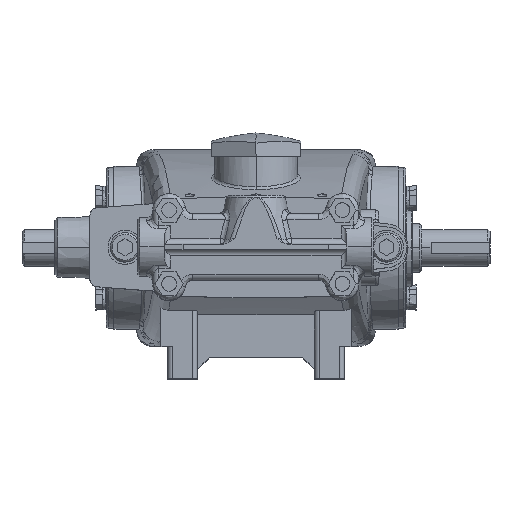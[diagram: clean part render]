
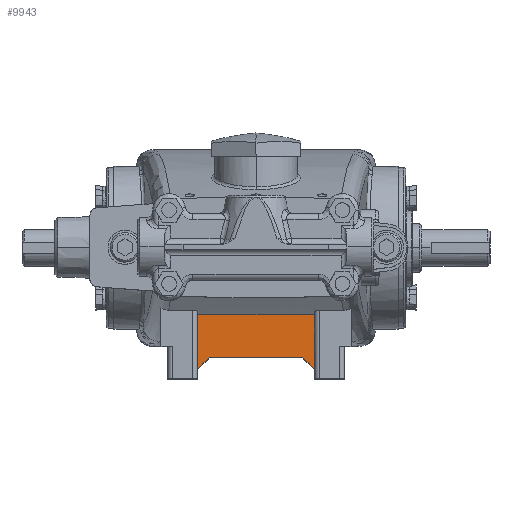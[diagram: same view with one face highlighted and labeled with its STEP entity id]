
A CAD part, top view. The second image highlights one B-rep face of the part: STEP entity #9943.
In plain terms, the highlighted planar face has unit normal (0, 0, 1).
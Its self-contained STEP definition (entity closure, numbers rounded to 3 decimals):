
#1633 = VERTEX_POINT ( 'NONE', #48864 ) ;
#2370 = DIRECTION ( 'NONE',  ( 0., 1., 0. ) ) ;
#3942 = LINE ( 'NONE', #19025, #39041 ) ;
#7990 = VECTOR ( 'NONE', #31114, 1000. ) ;
#8092 = ORIENTED_EDGE ( 'NONE', *, *, #9278, .F. ) ;
#9278 = EDGE_CURVE ( 'NONE', #1633, #39920, #3942, .T. ) ;
#9476 = DIRECTION ( 'NONE',  ( -1., 0., 0. ) ) ;
#9943 = ADVANCED_FACE ( 'NONE', ( #30871 ), #64565, .T. ) ;
#11222 = CARTESIAN_POINT ( 'NONE',  ( 31.75, -36.377, -38.989 ) ) ;
#14072 = CARTESIAN_POINT ( 'NONE',  ( 31.75, -59.69, -38.989 ) ) ;
#14076 = VERTEX_POINT ( 'NONE', #11222 ) ;
#14484 = CARTESIAN_POINT ( 'NONE',  ( 0.016, -36.377, -38.989 ) ) ;
#18671 = CARTESIAN_POINT ( 'NONE',  ( -31.75, -36.377, -38.989 ) ) ;
#19025 = CARTESIAN_POINT ( 'NONE',  ( -31.75, -71.12, -38.989 ) ) ;
#19266 = EDGE_CURVE ( 'NONE', #19326, #67650, #61825, .T. ) ;
#19326 = VERTEX_POINT ( 'NONE', #67333 ) ;
#19996 = CARTESIAN_POINT ( 'NONE',  ( -31.75, -66.106, -38.989 ) ) ;
#21543 = CARTESIAN_POINT ( 'NONE',  ( 31.75, -66.106, -38.989 ) ) ;
#22966 = VECTOR ( 'NONE', #9476, 1000. ) ;
#23311 = DIRECTION ( 'NONE',  ( 0., 0., 1. ) ) ;
#25640 = LINE ( 'NONE', #19996, #42749 ) ;
#27876 = LINE ( 'NONE', #14484, #22966 ) ;
#28350 = VECTOR ( 'NONE', #2370, 1000. ) ;
#30871 = FACE_OUTER_BOUND ( 'NONE', #40621, .T. ) ;
#31114 = DIRECTION ( 'NONE',  ( 0.707, -0.707, 0. ) ) ;
#38359 = ORIENTED_EDGE ( 'NONE', *, *, #19266, .T. ) ;
#39041 = VECTOR ( 'NONE', #44974, 1000. ) ;
#39920 = VERTEX_POINT ( 'NONE', #18671 ) ;
#40621 = EDGE_LOOP ( 'NONE', ( #62119, #43457, #38359, #53981, #57080, #8092 ) ) ;
#42749 = VECTOR ( 'NONE', #55588, 1000. ) ;
#43021 = EDGE_CURVE ( 'NONE', #1633, #59882, #25640, .T. ) ;
#43457 = ORIENTED_EDGE ( 'NONE', *, *, #66103, .T. ) ;
#44235 = CARTESIAN_POINT ( 'NONE',  ( 31.75, -71.12, -38.989 ) ) ;
#44974 = DIRECTION ( 'NONE',  ( 0., 1., 0. ) ) ;
#46214 = LINE ( 'NONE', #61229, #28350 ) ;
#46791 = CARTESIAN_POINT ( 'NONE',  ( -25.334, -59.69, -38.989 ) ) ;
#48864 = CARTESIAN_POINT ( 'NONE',  ( -31.75, -66.106, -38.989 ) ) ;
#49869 = DIRECTION ( 'NONE',  ( 1., 0., 0. ) ) ;
#52840 = LINE ( 'NONE', #14072, #61808 ) ;
#53981 = ORIENTED_EDGE ( 'NONE', *, *, #67476, .T. ) ;
#55588 = DIRECTION ( 'NONE',  ( 0.707, 0.707, 0. ) ) ;
#57080 = ORIENTED_EDGE ( 'NONE', *, *, #58440, .T. ) ;
#58440 = EDGE_CURVE ( 'NONE', #14076, #39920, #27876, .T. ) ;
#59882 = VERTEX_POINT ( 'NONE', #46791 ) ;
#61229 = CARTESIAN_POINT ( 'NONE',  ( 31.75, -71.12, -38.989 ) ) ;
#61808 = VECTOR ( 'NONE', #49869, 1000. ) ;
#61825 = LINE ( 'NONE', #67551, #7990 ) ;
#62119 = ORIENTED_EDGE ( 'NONE', *, *, #43021, .T. ) ;
#64565 = PLANE ( 'NONE',  #67003 ) ;
#65228 = DIRECTION ( 'NONE',  ( 1., 0., 0. ) ) ;
#66103 = EDGE_CURVE ( 'NONE', #59882, #19326, #52840, .T. ) ;
#67003 = AXIS2_PLACEMENT_3D ( 'NONE', #44235, #23311, #65228 ) ;
#67333 = CARTESIAN_POINT ( 'NONE',  ( 25.334, -59.69, -38.989 ) ) ;
#67476 = EDGE_CURVE ( 'NONE', #67650, #14076, #46214, .T. ) ;
#67551 = CARTESIAN_POINT ( 'NONE',  ( 25.334, -59.69, -38.989 ) ) ;
#67650 = VERTEX_POINT ( 'NONE', #21543 ) ;
